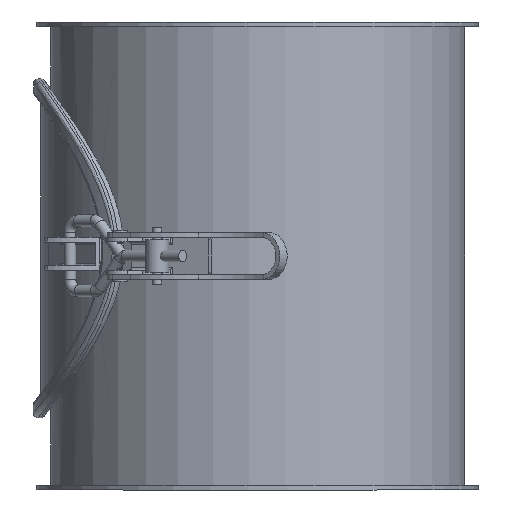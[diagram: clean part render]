
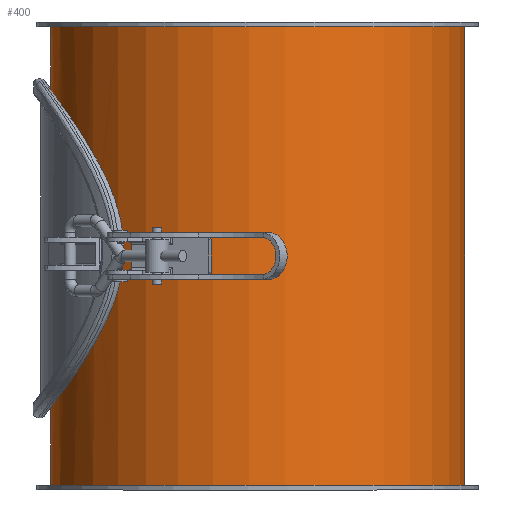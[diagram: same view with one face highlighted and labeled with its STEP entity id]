
A CAD part, front view. The second image highlights one B-rep face of the part: STEP entity #400.
In plain terms, the highlighted cylindrical face has radius 88.5 mm (diameter 177 mm), a full revolution.
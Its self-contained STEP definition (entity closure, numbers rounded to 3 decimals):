
#143=CARTESIAN_POINT('',(88.5,0.,198.0));
#144=VERTEX_POINT('',#143);
#145=CARTESIAN_POINT('',(0.0,0.0,198.0));
#146=DIRECTION('',(0.0,0.0,-1.0));
#147=DIRECTION('',(-1.0,0.0,0.0));
#148=AXIS2_PLACEMENT_3D('',#145,#146,#147);
#149=CIRCLE('',#148,88.5);
#150=EDGE_CURVE('',#144,#144,#149,.T.);
#191=CARTESIAN_POINT('',(-88.5,0.,2.0));
#192=VERTEX_POINT('',#191);
#193=CARTESIAN_POINT('',(0.0,0.0,2.0));
#194=DIRECTION('',(0.0,0.0,1.0));
#195=DIRECTION('',(-1.0,0.0,0.0));
#196=AXIS2_PLACEMENT_3D('',#193,#194,#195);
#197=CIRCLE('',#196,88.5);
#198=EDGE_CURVE('',#192,#192,#197,.T.);
#281=CARTESIAN_POINT('',(-67.276,-57.5,100.0));
#282=VERTEX_POINT('',#281);
#283=CARTESIAN_POINT('',(-67.276,-57.5,100.0));
#284=CARTESIAN_POINT('',(-67.276,-57.5,96.232));
#285=CARTESIAN_POINT('',(-67.602,-57.124,92.398));
#286=CARTESIAN_POINT('',(-68.855,-55.607,84.874));
#287=CARTESIAN_POINT('',(-69.778,-54.467,81.181));
#288=CARTESIAN_POINT('',(-71.99,-51.508,74.16));
#289=CARTESIAN_POINT('',(-73.277,-49.687,70.824));
#290=CARTESIAN_POINT('',(-75.94,-45.514,64.665));
#291=CARTESIAN_POINT('',(-77.313,-43.161,61.844));
#292=CARTESIAN_POINT('',(-79.889,-38.18,56.863));
#293=CARTESIAN_POINT('',(-81.191,-35.371,54.514));
#294=CARTESIAN_POINT('',(-83.606,-29.211,50.333));
#295=CARTESIAN_POINT('',(-84.716,-25.859,48.5));
#296=CARTESIAN_POINT('',(-86.556,-18.803,45.527));
#297=CARTESIAN_POINT('',(-87.287,-15.091,44.383));
#298=CARTESIAN_POINT('',(-88.259,-7.556,42.869));
#299=CARTESIAN_POINT('',(-88.5,-3.732,42.5));
#300=CARTESIAN_POINT('',(-88.5,3.732,42.5));
#301=CARTESIAN_POINT('',(-88.259,7.556,42.869));
#302=CARTESIAN_POINT('',(-87.287,15.091,44.383));
#303=CARTESIAN_POINT('',(-86.556,18.803,45.527));
#304=CARTESIAN_POINT('',(-84.716,25.859,48.5));
#305=CARTESIAN_POINT('',(-83.606,29.211,50.333));
#306=CARTESIAN_POINT('',(-81.191,35.371,54.514));
#307=CARTESIAN_POINT('',(-79.889,38.18,56.863));
#308=CARTESIAN_POINT('',(-77.313,43.161,61.844));
#309=CARTESIAN_POINT('',(-75.94,45.514,64.665));
#310=CARTESIAN_POINT('',(-73.277,49.687,70.824));
#311=CARTESIAN_POINT('',(-71.99,51.508,74.16));
#312=CARTESIAN_POINT('',(-69.778,54.467,81.181));
#313=CARTESIAN_POINT('',(-68.855,55.607,84.874));
#314=CARTESIAN_POINT('',(-67.602,57.124,92.398));
#315=CARTESIAN_POINT('',(-67.276,57.5,96.232));
#316=CARTESIAN_POINT('',(-67.276,57.5,103.768));
#317=CARTESIAN_POINT('',(-67.602,57.124,107.602));
#318=CARTESIAN_POINT('',(-68.855,55.607,115.126));
#319=CARTESIAN_POINT('',(-69.778,54.467,118.819));
#320=CARTESIAN_POINT('',(-71.99,51.508,125.84));
#321=CARTESIAN_POINT('',(-73.277,49.687,129.176));
#322=CARTESIAN_POINT('',(-75.94,45.514,135.335));
#323=CARTESIAN_POINT('',(-77.313,43.161,138.156));
#324=CARTESIAN_POINT('',(-79.889,38.18,143.137));
#325=CARTESIAN_POINT('',(-81.191,35.371,145.486));
#326=CARTESIAN_POINT('',(-83.606,29.211,149.667));
#327=CARTESIAN_POINT('',(-84.716,25.859,151.5));
#328=CARTESIAN_POINT('',(-86.556,18.803,154.473));
#329=CARTESIAN_POINT('',(-87.287,15.091,155.617));
#330=CARTESIAN_POINT('',(-88.259,7.556,157.131));
#331=CARTESIAN_POINT('',(-88.5,3.732,157.5));
#332=CARTESIAN_POINT('',(-88.5,-3.732,157.5));
#333=CARTESIAN_POINT('',(-88.259,-7.556,157.131));
#334=CARTESIAN_POINT('',(-87.287,-15.091,155.617));
#335=CARTESIAN_POINT('',(-86.556,-18.803,154.473));
#336=CARTESIAN_POINT('',(-84.716,-25.859,151.5));
#337=CARTESIAN_POINT('',(-83.606,-29.211,149.667));
#338=CARTESIAN_POINT('',(-81.191,-35.371,145.486));
#339=CARTESIAN_POINT('',(-79.889,-38.18,143.137));
#340=CARTESIAN_POINT('',(-77.313,-43.161,138.156));
#341=CARTESIAN_POINT('',(-75.94,-45.514,135.335));
#342=CARTESIAN_POINT('',(-73.277,-49.687,129.176));
#343=CARTESIAN_POINT('',(-71.99,-51.508,125.84));
#344=CARTESIAN_POINT('',(-69.778,-54.467,118.819));
#345=CARTESIAN_POINT('',(-68.855,-55.607,115.126));
#346=CARTESIAN_POINT('',(-67.602,-57.124,107.602));
#347=CARTESIAN_POINT('',(-67.276,-57.5,103.768));
#348=CARTESIAN_POINT('',(-67.276,-57.5,100.0));
#349=B_SPLINE_CURVE_WITH_KNOTS('',3,(#283,#284,#285,#286,#287,#288,#289,#290,#291,#292,#293,#294,#295,#296,#297,#298,#299,#300,#301,#302,#303,#304,#305,#306,#307,#308,#309,#310,#311,#312,#313,#314,#315,#316,#317,#318,#319,#320,#321,#322,#323,#324,#325,#326,#327,#328,#329,#330,#331,#332,#333,#334,#335,#336,#337,#338,#339,#340,#341,#342,#343,#344,#345,#346,#347,#348),.UNSPECIFIED.,.T.,.U.,(4,2,2,2,2,2,2,2,2,2,2,2,2,2,2,2,2,2,2,2,2,2,2,2,2,2,2,2,2,2,2,2,4),(0.0,1.13,2.261,3.391,4.522,5.641,6.761,7.881,9.,10.12,11.239,12.359,13.479,14.609,15.74,16.87,18.001,19.131,20.261,21.392,22.522,23.642,24.762,25.881,27.001,28.12,29.24,30.36,31.479,32.61,33.74,34.871,36.001),.UNSPECIFIED.);
#350=EDGE_CURVE('',#282,#282,#349,.T.);
#386=CARTESIAN_POINT('',(0.0,0.0,0.0));
#387=DIRECTION('',(0.0,0.0,1.0));
#388=DIRECTION('',(-1.0,0.0,0.0));
#389=AXIS2_PLACEMENT_3D('',#386,#387,#388);
#390=CYLINDRICAL_SURFACE('',#389,88.5);
#391=ORIENTED_EDGE('',*,*,#150,.T.);
#392=EDGE_LOOP('',(#391));
#393=FACE_OUTER_BOUND('',#392,.T.);
#394=ORIENTED_EDGE('',*,*,#198,.T.);
#395=EDGE_LOOP('',(#394));
#396=FACE_BOUND('',#395,.T.);
#397=ORIENTED_EDGE('',*,*,#350,.T.);
#398=EDGE_LOOP('',(#397));
#399=FACE_BOUND('',#398,.T.);
#400=ADVANCED_FACE('',(#393,#396,#399),#390,.T.);
